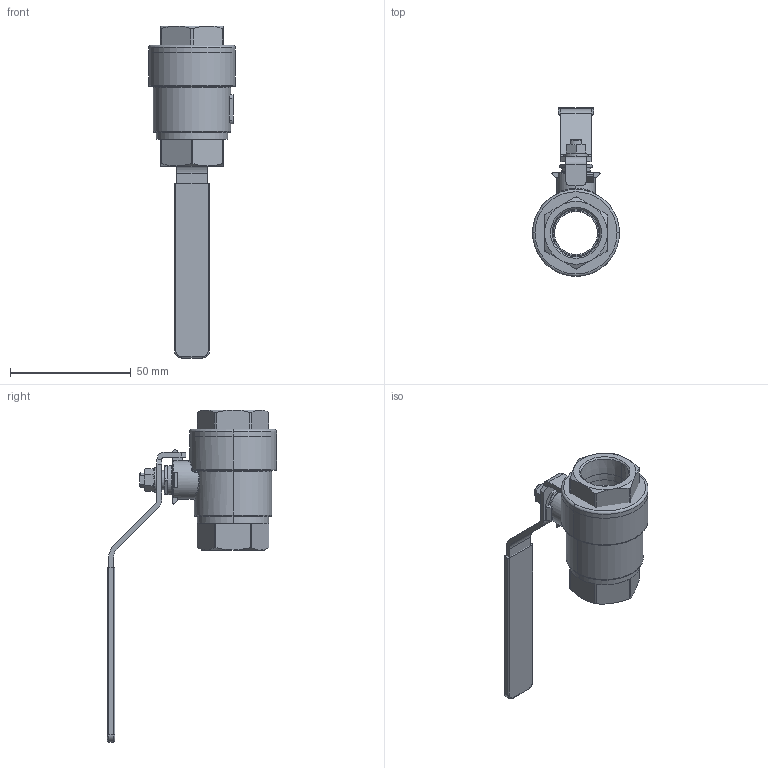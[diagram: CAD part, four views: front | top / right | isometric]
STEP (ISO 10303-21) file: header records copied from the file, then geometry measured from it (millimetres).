
FILE_DESCRIPTION (( 'STEP AP203' ), '1' );
FILE_NAME ('MVX02 0000 N4.STEP', '2019-02-02T14:01:39', ( '' ), ( '' ), 'SwSTEP 2.0', 'SolidWorks 2013', '' );
FILE_SCHEMA (( 'CONFIG_CONTROL_DESIGN' ));
Length unit declared in the file: millimetre
Products named in the file (1): MVX02 0000 N4
Bounding box: 36.02 x 70.01 x 137.5 mm (x, y, z)
Volume: 40155.7 mm3; surface area: 19958.2 mm2
Topology: 5 solids, 5 shells, 238 faces, 580 edges, 360 vertices
Faces by surface type: plane 106, cylinder 61, cone 45, torus 20, bspline 4, sphere 2
Entity records: 7758 total; most frequent: CARTESIAN_POINT 2097, DIRECTION 1193, ORIENTED_EDGE 1160, EDGE_CURVE 580, AXIS2_PLACEMENT_3D 464, VERTEX_POINT 360, LINE 265, VECTOR 265
